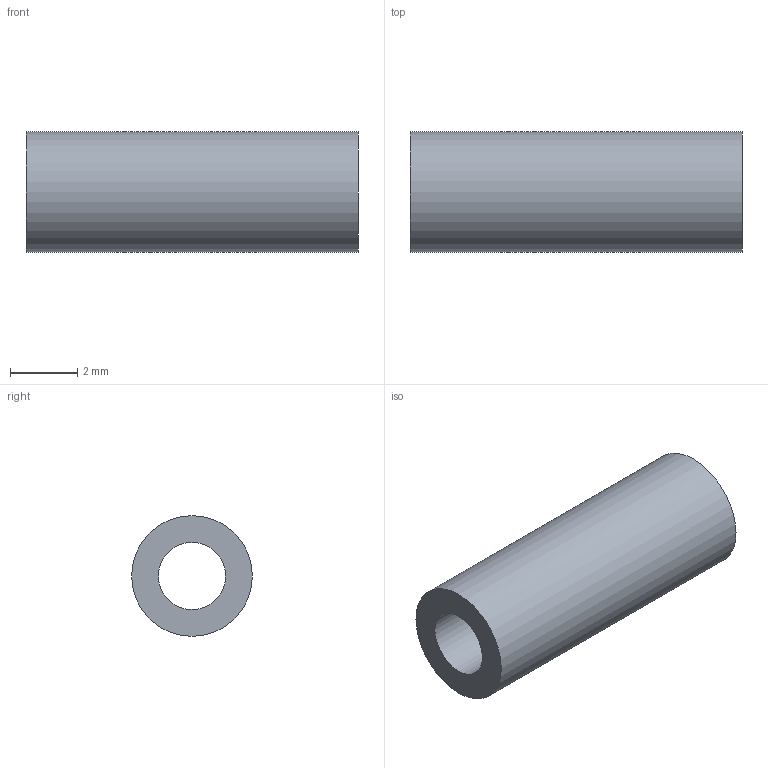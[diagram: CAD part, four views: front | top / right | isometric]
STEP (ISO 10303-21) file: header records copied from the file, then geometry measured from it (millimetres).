
FILE_DESCRIPTION(/* description */ ('STEP AP242','CAx-IF Rec.Pracs.---Representation and Presentation of Product Manufacturing Information (PMI)---4.0---2014-10-13','CAx-IF Rec.Pracs.---3D Tessellated Geometry---0.4---2014-09-14','2;1'),/* implementation_level */ '2;1');
FILE_NAME(/* name */ 'Body - Part 3',/* time_stamp */ '2025-06-15T22:21:49Z',/* author */ (''),/* organization */ (''),/* preprocessor_version */ 'ST-DEVELOPER v20',/* originating_system */ 'ONSHAPE BY PTC INC, 1.199',/* authorisation */ ' ');
FILE_SCHEMA (('AP242_MANAGED_MODEL_BASED_3D_ENGINEERING_MIM_LF { 1 0 10303 442 1 1 4 }'));
Length unit declared in the file: metre
Products named in the file (1): Part 3
Bounding box: 9.9 x 3.6 x 3.6 mm (x, y, z)
Volume: 69.7 mm3; surface area: 188.2 mm2
Topology: 1 solids, 1 shells, 4 faces, 6 edges, 4 vertices
Faces by surface type: cylinder 2, plane 2
Full cylindrical faces by diameter (mm): 2 x1, 3.6 x1
Entity records: 110 total; most frequent: DIRECTION 18, CARTESIAN_POINT 13, AXIS2_PLACEMENT_3D 9, ORIENTED_EDGE 8, EDGE_LOOP 8, FACE_BOUND 8, EDGE_CURVE 4, VERTEX_POINT 4
